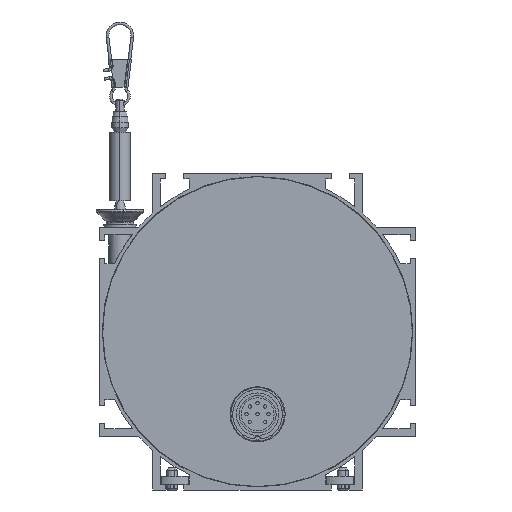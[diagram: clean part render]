
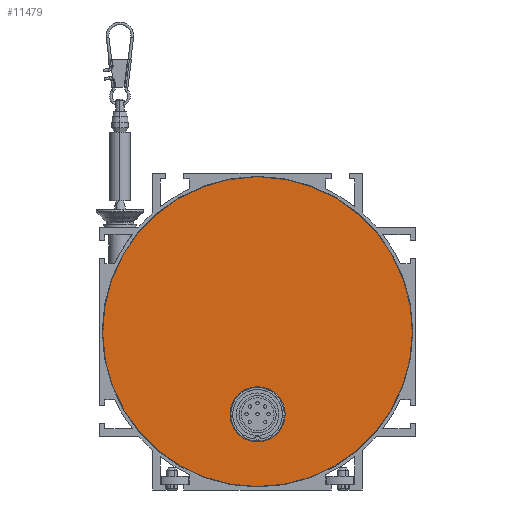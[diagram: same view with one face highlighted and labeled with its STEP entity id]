
A CAD part, left-side view. The second image highlights one B-rep face of the part: STEP entity #11479.
In plain terms, the highlighted planar face has unit normal (-1, 0, 0).
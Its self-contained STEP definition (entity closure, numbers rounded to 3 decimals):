
#3850=CARTESIAN_POINT('',(0.,0.,0.));
#3851=DIRECTION('',(-1.,0.,0.));
#3852=DIRECTION('',(0.,0.019,1.));
#3853=AXIS2_PLACEMENT_3D('',#3850,#3851,#3852);
#3863=DIRECTION('',(0.,1.,0.));
#3864=VECTOR('',#3863,2.121);
#3865=CARTESIAN_POINT('',(0.,-1.061,56.24));
#3866=LINE('',#3865,#3864);
#3867=CARTESIAN_POINT('',(0.,0.,-30.));
#3868=DIRECTION('',(-1.,0.,0.));
#3869=DIRECTION('',(0.,1.,0.));
#3870=AXIS2_PLACEMENT_3D('',#3867,#3868,#3869);
#3872=CARTESIAN_POINT('',(0.,0.,-30.));
#3873=DIRECTION('',(-1.,0.,0.));
#3874=DIRECTION('',(0.,-1.,0.));
#3875=AXIS2_PLACEMENT_3D('',#3872,#3873,#3874);
#4831=CARTESIAN_POINT('',(0.,-1.061,56.24));
#4832=CARTESIAN_POINT('',(0.,1.061,56.24));
#4833=VERTEX_POINT('',#4831);
#4834=VERTEX_POINT('',#4832);
#4922=CARTESIAN_POINT('',(0.,10.,-30.));
#4923=CARTESIAN_POINT('',(0.,-10.,-30.));
#4924=VERTEX_POINT('',#4922);
#4925=VERTEX_POINT('',#4923);
#11464=CARTESIAN_POINT('',(0.,0.,0.));
#11465=DIRECTION('',(1.,0.,0.));
#11466=DIRECTION('',(0.,1.,0.));
#11467=AXIS2_PLACEMENT_3D('',#11464,#11465,#11466);
#11468=PLANE('',#11467);
#11469=ORIENTED_EDGE('',*,*,#11444,.F.);
#11470=ORIENTED_EDGE('',*,*,#11458,.F.);
#11471=EDGE_LOOP('',(#11469,#11470));
#11472=FACE_OUTER_BOUND('',#11471,.F.);
#11474=ORIENTED_EDGE('',*,*,#11473,.T.);
#11476=ORIENTED_EDGE('',*,*,#11475,.T.);
#11477=EDGE_LOOP('',(#11474,#11476));
#11478=FACE_BOUND('',#11477,.F.);
#11479=ADVANCED_FACE('',(#11472,#11478),#11468,.F.);
#3854=CIRCLE('',#3853,56.25);
#3871=CIRCLE('',#3870,10.);
#3876=CIRCLE('',#3875,10.);
#11444=EDGE_CURVE('',#4834,#4833,#3854,.T.);
#11458=EDGE_CURVE('',#4833,#4834,#3866,.T.);
#11473=EDGE_CURVE('',#4924,#4925,#3871,.T.);
#11475=EDGE_CURVE('',#4925,#4924,#3876,.T.);
